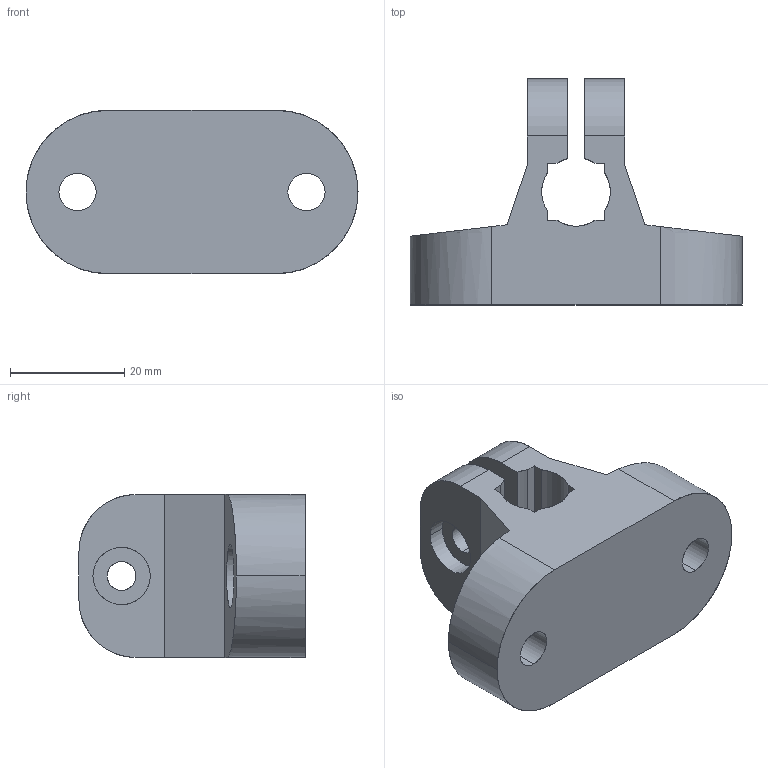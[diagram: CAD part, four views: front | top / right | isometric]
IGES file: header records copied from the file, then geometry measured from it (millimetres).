
Start section: SolidWorks IGES file using analytic representation for surfaces
Global section: file name: C:\Documents and Settings\ARGE\Desktop\yeni katalog tolgay düzenli\B kataloðu\FOTOSEL GÖVDE BAÐLAMA MENGENESÝ\export\214 152 012.IGS; native system: SolidWorks 2006 by SolidWorks Corporation; preprocessor: SolidWorks 2006 by SolidWorks Corporation; author: ARGE2; date: 060911.183016; units: millimetre
Bounding box: 58 x 39.5 x 28.5 mm (x, y, z)
Surface area: 9160.3 mm2 (no closed solid volume)
Topology: 0 solids, 0 shells, 55 faces, 1050 edges, 1050 vertices
Faces by surface type: revolution 30, bspline 25
